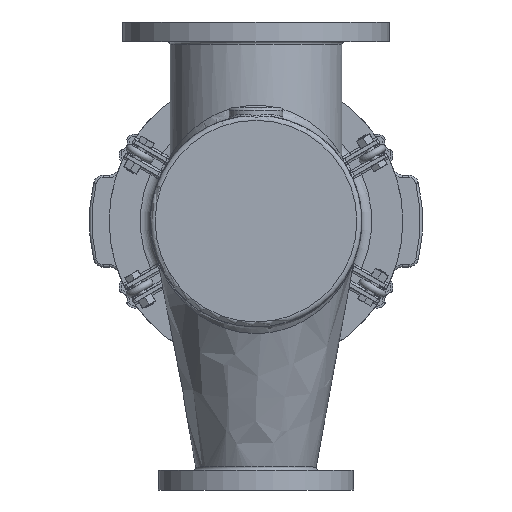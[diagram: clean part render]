
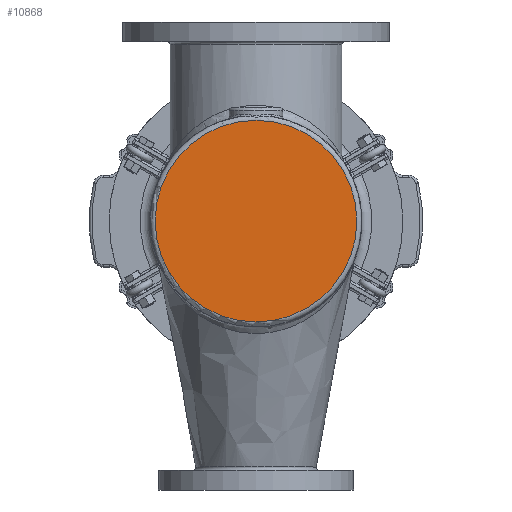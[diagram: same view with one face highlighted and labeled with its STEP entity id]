
A CAD part, front view. The second image highlights one B-rep face of the part: STEP entity #10868.
In plain terms, the highlighted planar face has unit normal (0, -1, 0).
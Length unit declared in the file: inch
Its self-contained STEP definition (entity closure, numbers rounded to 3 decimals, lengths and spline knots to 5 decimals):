
#1447=PLANE('',#11600);
#2368=FACE_OUTER_BOUND('',#3071,.T.);
#3071=EDGE_LOOP('',(#7288));
#3953=CIRCLE('',#11592,5.0625);
#4695=VERTEX_POINT('',#16772);
#5699=EDGE_CURVE('',#4695,#4695,#3953,.T.);
#7288=ORIENTED_EDGE('',*,*,#5699,.F.);
#10868=ADVANCED_FACE('',(#2368),#1447,.F.);
#11592=AXIS2_PLACEMENT_3D('',#16773,#13069,#13070);
#11600=AXIS2_PLACEMENT_3D('',#16784,#13085,#13086);
#13069=DIRECTION('center_axis',(0.,1.,0.));
#13070=DIRECTION('ref_axis',(1.,0.,0.));
#13085=DIRECTION('center_axis',(0.,1.,0.));
#13086=DIRECTION('ref_axis',(0.,0.,1.));
#16772=CARTESIAN_POINT('',(-5.0625,0.,0.));
#16773=CARTESIAN_POINT('Origin',(0.,0.,0.));
#16784=CARTESIAN_POINT('Origin',(0.,0.,0.));
